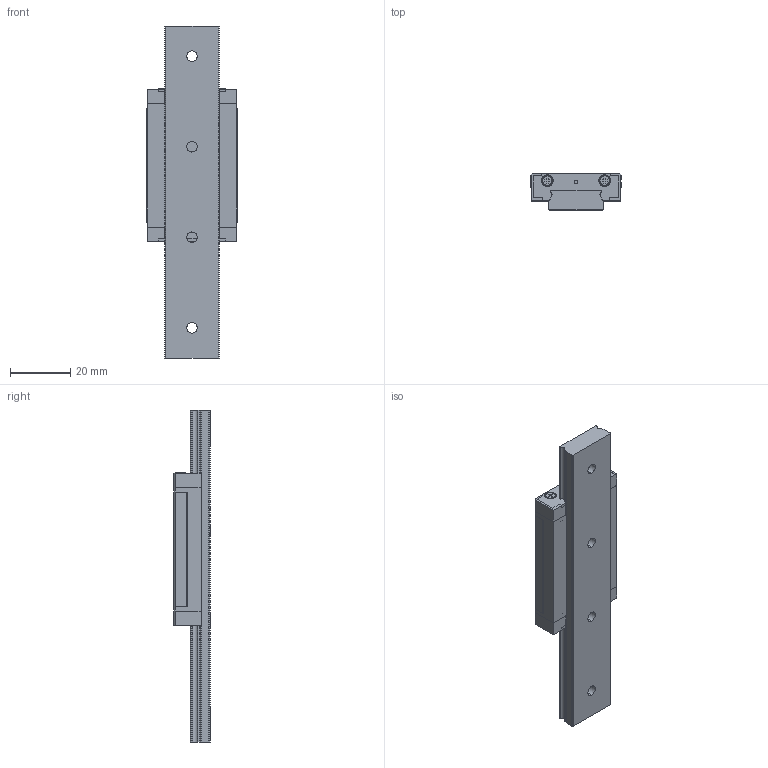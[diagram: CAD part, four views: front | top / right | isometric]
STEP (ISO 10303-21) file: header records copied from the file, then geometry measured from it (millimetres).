
FILE_DESCRIPTION (( 'STEP AP214' ), '1' );
FILE_NAME ('FBXX09WH-SS.STEP', '2022-08-06T21:52:21', ( 'JST' ), ( 'JST' ), 'SwSTEP 2.0', 'SolidWorks 2016', '' );
FILE_SCHEMA (( 'AUTOMOTIVE_DESIGN' ));
Length unit declared in the file: millimetre
Products named in the file (8): FBXX09WH-SS; 09WH悜遠釱; 09WH-SS滅鳥; 09WH傷裔; 09W絳寢; M2蹟佪; 09WH賑輸; 09WH-SS賑輸
Assembly tree (12 placements, depth 3):
  FBXX09WH-SS
    09W絳寢
    09WH-SS賑輸
      09WH賑輸
      09WH傷裔  x2
      M2蹟佪  x4
      09WH悜遠釱
      09WH-SS滅鳥  x2
Bounding box: 30 x 12 x 110 mm (x, y, z)
Volume: 21464.5 mm3; surface area: 15042.4 mm2
Topology: 11 solids, 13 shells, 546 faces, 1468 edges, 964 vertices
Faces by surface type: cylinder 257, plane 245, cone 24, bspline 20
Entity records: 12912 total; most frequent: CARTESIAN_POINT 4147, ORIENTED_EDGE 1510, DIRECTION 1465, EDGE_CURVE 755, VERTEX_POINT 496, VECTOR 491, LINE 491, AXIS2_PLACEMENT_3D 487
